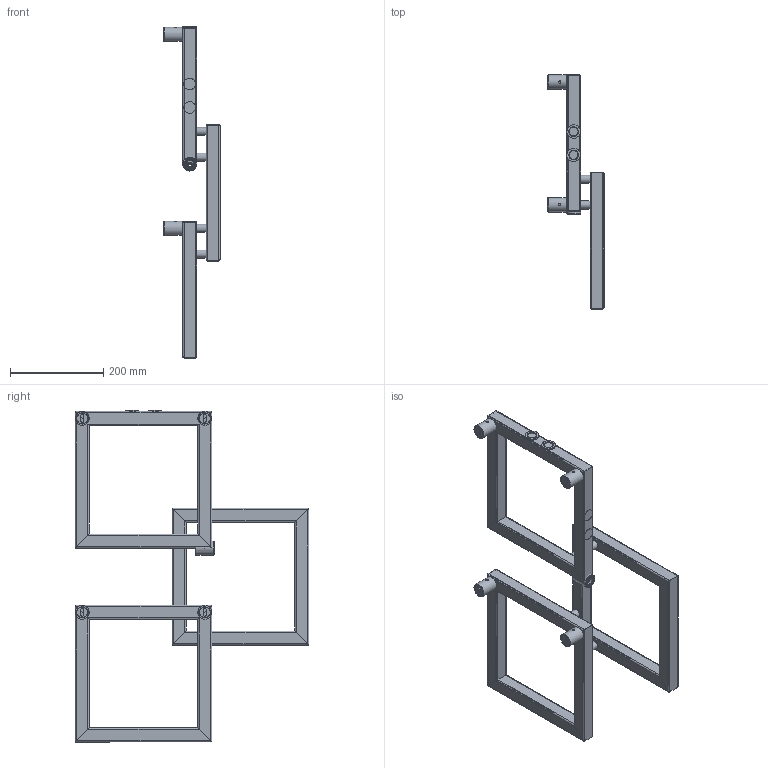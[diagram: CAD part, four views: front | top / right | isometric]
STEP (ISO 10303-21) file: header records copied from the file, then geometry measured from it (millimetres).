
FILE_DESCRIPTION( ( 'Unknown' ), '1' );
FILE_NAME( 'V:/DESIGN PROGRAM/LOCO mini/STP/LOCO 3 mini.stp', 'Unknown', ( 'Unknown' ), ( 'Unknown' ), 'PSStep 10.1', 'Unknown', ' ' );
FILE_SCHEMA( ( 'AUTOMOTIVE_DESIGN { 1 0 10303 214 1 1 1 1 }' ) );
Length unit declared in the file: millimetre
Products named in the file (26): Ramka 3; Ramka 1; Assem1; Mocowanie L40; Ramka 2; MOCOWANIE L40-01; MOCOWANIE FASOLKA; MOCOWANIE L40-03; czêœæ 3; czêœæ 1; czêœæ 2; czêœæ 4; czêœæ 3-oa0; czêœæ 1-oa1; czêœæ 5; czêœæ 6; czêœæ 3-oa6; czêœæ 3-oa7; czêœæ 1-oa8; czêœæ 2-oa9; ｳｹcznik ; ｳｹcznik -oa2; ｳｹcznik -oa3; ｳｹcznik -oa4; Zaslepka fi 30 z gwintem ; Zaslepka fi 30 z gwintem -oa5
Bounding box: 120 x 500 x 710.5 mm (x, y, z)
Volume: 1677412.1 mm3; surface area: 2184588.2 mm2
Topology: 66 solids, 66 shells, 924 faces, 2370 edges, 1580 vertices
Faces by surface type: plane 470, cylinder 416, cone 30, torus 8
Full cylindrical faces by diameter (mm): 4.917 x6, 12.5 x8, 15.5 x8, 16.3 x8, 16.5 x24, 17 x6, 17.2 x8, 18.631 x4, 20 x6, 22 x6, 22.7 x6, 23 x6, 25 x4, 25.25 x6, 29 x4, 30 x6
Entity records: 11917 total; most frequent: CARTESIAN_POINT 1710, DIRECTION 1630, ORIENTED_EDGE 1390, EDGE_CURVE 695, AXIS2_PLACEMENT_3D 615, VERTEX_POINT 491, EDGE_LOOP 420, LINE 400
